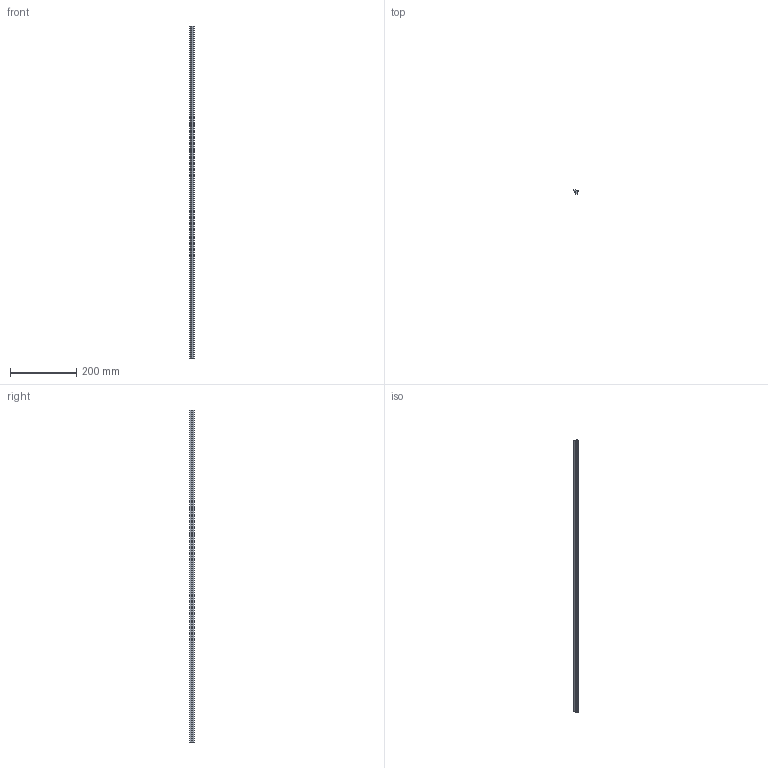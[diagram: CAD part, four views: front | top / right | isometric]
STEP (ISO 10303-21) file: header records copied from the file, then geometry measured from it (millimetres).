
FILE_DESCRIPTION (( 'STEP AP214' ), '1' );
FILE_NAME ('SF05002.step', '2024-12-03T16:29:48', ( '' ), ( '' ), 'SwSTEP 2.0', 'SolidWorks 2023', '' );
FILE_SCHEMA (( 'AUTOMOTIVE_DESIGN' ));
Length unit declared in the file: millimetre
Products named in the file (1): SF05002
Bounding box: 12.32 x 12.6 x 1000 mm (x, y, z)
Volume: 67276 mm3; surface area: 49520.6 mm2
Topology: 1 solids, 1 shells, 24 faces, 66 edges, 44 vertices
Faces by surface type: plane 13, cylinder 11
Entity records: 795 total; most frequent: DIRECTION 138, CARTESIAN_POINT 135, ORIENTED_EDGE 132, EDGE_CURVE 66, AXIS2_PLACEMENT_3D 47, VERTEX_POINT 44, VECTOR 44, LINE 44
